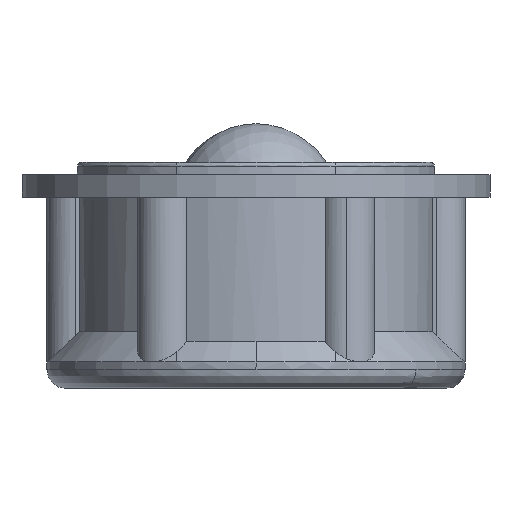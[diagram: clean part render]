
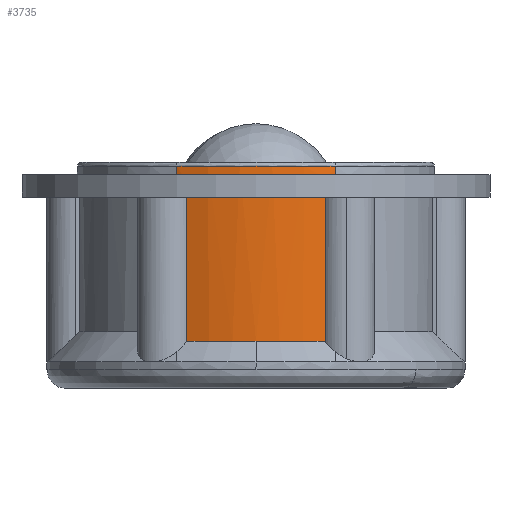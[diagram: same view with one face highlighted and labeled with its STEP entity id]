
A CAD part, left-side view. The second image highlights one B-rep face of the part: STEP entity #3735.
In plain terms, the highlighted cylindrical face has radius 10 mm (diameter 20 mm), a partial arc.
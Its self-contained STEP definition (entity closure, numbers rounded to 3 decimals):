
#52 = CARTESIAN_POINT ( 'NONE',  ( -16.494, 7.077, 22.35 ) ) ;
#104 = CARTESIAN_POINT ( 'NONE',  ( -16.494, 15.477, 17.335 ) ) ;
#172 = ORIENTED_EDGE ( 'NONE', *, *, #4037, .F. ) ;
#416 = LINE ( 'NONE', #1071, #3879 ) ;
#424 = LINE ( 'NONE', #7514, #3072 ) ;
#482 = VERTEX_POINT ( 'NONE', #7277 ) ;
#494 = AXIS2_PLACEMENT_3D ( 'NONE', #7055, #7001, #1819 ) ;
#595 = CARTESIAN_POINT ( 'NONE',  ( -7.419, 11.277, 12.12 ) ) ;
#913 = CARTESIAN_POINT ( 'NONE',  ( -16.494, 15.477, 21.85 ) ) ;
#954 = DIRECTION ( 'NONE',  ( 0., 0., 1. ) ) ;
#981 = ORIENTED_EDGE ( 'NONE', *, *, #6013, .T. ) ;
#1071 = CARTESIAN_POINT ( 'NONE',  ( -16.494, 7.077, 17.335 ) ) ;
#1144 = CARTESIAN_POINT ( 'NONE',  ( -16.494, 15.477, 22.35 ) ) ;
#1493 = CARTESIAN_POINT ( 'NONE',  ( -17.419, 11.277, 13.05 ) ) ;
#1679 = CIRCLE ( 'NONE', #3503, 10. ) ;
#1692 = CARTESIAN_POINT ( 'NONE',  ( -16.494, 15.477, 21.85 ) ) ;
#1694 = VERTEX_POINT ( 'NONE', #52 ) ;
#1712 = CARTESIAN_POINT ( 'NONE',  ( -16.646, 7.413, 21.797 ) ) ;
#1762 = CARTESIAN_POINT ( 'NONE',  ( -16.601, 7.313, 21.84 ) ) ;
#1791 = CARTESIAN_POINT ( 'NONE',  ( -16.707, 7.562, 21.636 ) ) ;
#1813 = CARTESIAN_POINT ( 'NONE',  ( -16.719, 7.598, 21.541 ) ) ;
#1819 = DIRECTION ( 'NONE',  ( -1., 0., 0. ) ) ;
#1964 = VECTOR ( 'NONE', #954, 1000. ) ;
#1994 = CARTESIAN_POINT ( 'NONE',  ( -16.721, 14.949, 21.555 ) ) ;
#2092 = EDGE_CURVE ( 'NONE', #5698, #3938, #6537, .T. ) ;
#2127 = CARTESIAN_POINT ( 'NONE',  ( -16.721, 14.949, 16.85 ) ) ;
#2220 = DIRECTION ( 'NONE',  ( -1., 0., 0. ) ) ;
#2248 = DIRECTION ( 'NONE',  ( 0., 0., -1. ) ) ;
#2536 = CARTESIAN_POINT ( 'NONE',  ( -16.647, 15.129, 21.788 ) ) ;
#2561 = CARTESIAN_POINT ( 'NONE',  ( -16.669, 15.077, 21.744 ) ) ;
#2623 = ORIENTED_EDGE ( 'NONE', *, *, #4710, .T. ) ;
#2641 = B_SPLINE_CURVE_WITH_KNOTS ( 'NONE', 3,
 ( #4562, #5946, #5380, #5463 ),
 .UNSPECIFIED., .F., .F.,
 ( 4, 4 ),
 ( 0., 1. ),
 .UNSPECIFIED. ) ;
#2642 = CARTESIAN_POINT ( 'NONE',  ( -16.554, 15.345, 21.85 ) ) ;
#2667 = VERTEX_POINT ( 'NONE', #7345 ) ;
#2885 = CYLINDRICAL_SURFACE ( 'NONE', #3128, 10. ) ;
#2906 = EDGE_CURVE ( 'NONE', #6485, #3983, #6041, .T. ) ;
#2916 = DIRECTION ( 'NONE',  ( 0., 0., -1. ) ) ;
#3042 = VERTEX_POINT ( 'NONE', #6660 ) ;
#3072 = VECTOR ( 'NONE', #6329, 1000. ) ;
#3128 = AXIS2_PLACEMENT_3D ( 'NONE', #595, #6516, #6462 ) ;
#3131 = CARTESIAN_POINT ( 'NONE',  ( -16.707, 14.985, 21.646 ) ) ;
#3156 = EDGE_CURVE ( 'NONE', #2667, #3983, #424, .T. ) ;
#3235 = CARTESIAN_POINT ( 'NONE',  ( -16.674, 15.066, 21.733 ) ) ;
#3475 = CARTESIAN_POINT ( 'NONE',  ( -16.721, 14.949, 13.05 ) ) ;
#3482 = LINE ( 'NONE', #104, #3845 ) ;
#3503 = AXIS2_PLACEMENT_3D ( 'NONE', #6347, #2248, #6962 ) ;
#3586 = VERTEX_POINT ( 'NONE', #1493 ) ;
#3735 = ADVANCED_FACE ( 'NONE', ( #7532 ), #2885, .T. ) ;
#3771 = CIRCLE ( 'NONE', #494, 10. ) ;
#3785 = CARTESIAN_POINT ( 'NONE',  ( -16.633, 15.164, 21.808 ) ) ;
#3845 = VECTOR ( 'NONE', #4180, 1000. ) ;
#3879 = VECTOR ( 'NONE', #6870, 1000. ) ;
#3914 = CARTESIAN_POINT ( 'NONE',  ( -16.515, 15.434, 21.85 ) ) ;
#3938 = VERTEX_POINT ( 'NONE', #6269 ) ;
#3971 = ORIENTED_EDGE ( 'NONE', *, *, #7147, .T. ) ;
#3983 = VERTEX_POINT ( 'NONE', #3998 ) ;
#3998 = CARTESIAN_POINT ( 'NONE',  ( -16.721, 7.606, 21.45 ) ) ;
#4037 = EDGE_CURVE ( 'NONE', #2667, #3586, #1679, .T. ) ;
#4116 = B_SPLINE_CURVE_WITH_KNOTS ( 'NONE', 3,
 ( #913, #3914, #5644, #6809 ),
 .UNSPECIFIED., .F., .F.,
 ( 4, 4 ),
 ( 0., 1. ),
 .UNSPECIFIED. ) ;
#4180 = DIRECTION ( 'NONE',  ( 0., 0., -1. ) ) ;
#4410 = VERTEX_POINT ( 'NONE', #1692 ) ;
#4553 = EDGE_LOOP ( 'NONE', ( #172, #6866, #6302, #6263, #2623, #6647, #3971, #5572, #981, #7552, #4789 ) ) ;
#4562 = CARTESIAN_POINT ( 'NONE',  ( -16.494, 7.077, 21.85 ) ) ;
#4668 = CARTESIAN_POINT ( 'NONE',  ( -16.554, 7.209, 21.85 ) ) ;
#4710 = EDGE_CURVE ( 'NONE', #3042, #1694, #416, .T. ) ;
#4720 = CARTESIAN_POINT ( 'NONE',  ( -16.697, 7.534, 21.683 ) ) ;
#4789 = ORIENTED_EDGE ( 'NONE', *, *, #6651, .F. ) ;
#5223 = EDGE_CURVE ( 'NONE', #4410, #482, #4116, .T. ) ;
#5255 = CARTESIAN_POINT ( 'NONE',  ( -16.577, 7.26, 21.85 ) ) ;
#5380 = CARTESIAN_POINT ( 'NONE',  ( -16.534, 7.165, 21.85 ) ) ;
#5436 = CARTESIAN_POINT ( 'NONE',  ( -16.661, 15.097, 21.762 ) ) ;
#5463 = CARTESIAN_POINT ( 'NONE',  ( -16.554, 7.209, 21.85 ) ) ;
#5572 = ORIENTED_EDGE ( 'NONE', *, *, #5223, .T. ) ;
#5644 = CARTESIAN_POINT ( 'NONE',  ( -16.534, 15.39, 21.85 ) ) ;
#5698 = VERTEX_POINT ( 'NONE', #3475 ) ;
#5847 = CARTESIAN_POINT ( 'NONE',  ( -16.666, 7.459, 21.764 ) ) ;
#5946 = CARTESIAN_POINT ( 'NONE',  ( -16.515, 7.121, 21.85 ) ) ;
#6013 = EDGE_CURVE ( 'NONE', #482, #3938, #7333, .T. ) ;
#6041 = B_SPLINE_CURVE_WITH_KNOTS ( 'NONE', 3,
 ( #4668, #5255, #1762, #1712, #5847, #4720, #1791, #1813, #6389, #6975 ),
 .UNSPECIFIED., .F., .F.,
 ( 4, 2, 2, 2, 4 ),
 ( 0., 0.25, 0.5, 0.75, 1. ),
 .UNSPECIFIED. ) ;
#6263 = ORIENTED_EDGE ( 'NONE', *, *, #7180, .F. ) ;
#6269 = CARTESIAN_POINT ( 'NONE',  ( -16.721, 14.949, 21.45 ) ) ;
#6302 = ORIENTED_EDGE ( 'NONE', *, *, #2906, .F. ) ;
#6319 = CARTESIAN_POINT ( 'NONE',  ( -7.419, 11.277, 13.05 ) ) ;
#6329 = DIRECTION ( 'NONE',  ( 0., 0., 1. ) ) ;
#6340 = VERTEX_POINT ( 'NONE', #1144 ) ;
#6347 = CARTESIAN_POINT ( 'NONE',  ( -7.419, 11.277, 13.05 ) ) ;
#6389 = CARTESIAN_POINT ( 'NONE',  ( -16.721, 7.606, 21.493 ) ) ;
#6462 = DIRECTION ( 'NONE',  ( 1., 0., 0. ) ) ;
#6485 = VERTEX_POINT ( 'NONE', #6644 ) ;
#6516 = DIRECTION ( 'NONE',  ( 0., 0., 1. ) ) ;
#6537 = LINE ( 'NONE', #2127, #1964 ) ;
#6644 = CARTESIAN_POINT ( 'NONE',  ( -16.554, 7.209, 21.85 ) ) ;
#6647 = ORIENTED_EDGE ( 'NONE', *, *, #6756, .T. ) ;
#6651 = EDGE_CURVE ( 'NONE', #3586, #5698, #7048, .T. ) ;
#6660 = CARTESIAN_POINT ( 'NONE',  ( -16.494, 7.077, 21.85 ) ) ;
#6727 = CARTESIAN_POINT ( 'NONE',  ( -16.579, 15.288, 21.85 ) ) ;
#6756 = EDGE_CURVE ( 'NONE', #1694, #6340, #3771, .T. ) ;
#6809 = CARTESIAN_POINT ( 'NONE',  ( -16.554, 15.345, 21.85 ) ) ;
#6866 = ORIENTED_EDGE ( 'NONE', *, *, #3156, .T. ) ;
#6870 = DIRECTION ( 'NONE',  ( 0., 0., 1. ) ) ;
#6962 = DIRECTION ( 'NONE',  ( -1., 0., 0. ) ) ;
#6975 = CARTESIAN_POINT ( 'NONE',  ( -16.721, 7.606, 21.45 ) ) ;
#7001 = DIRECTION ( 'NONE',  ( 0., 0., -1. ) ) ;
#7048 = CIRCLE ( 'NONE', #7233, 10. ) ;
#7055 = CARTESIAN_POINT ( 'NONE',  ( -7.419, 11.277, 22.35 ) ) ;
#7147 = EDGE_CURVE ( 'NONE', #6340, #4410, #3482, .T. ) ;
#7180 = EDGE_CURVE ( 'NONE', #3042, #6485, #2641, .T. ) ;
#7204 = CARTESIAN_POINT ( 'NONE',  ( -16.721, 14.949, 21.45 ) ) ;
#7233 = AXIS2_PLACEMENT_3D ( 'NONE', #6319, #2916, #2220 ) ;
#7277 = CARTESIAN_POINT ( 'NONE',  ( -16.554, 15.345, 21.85 ) ) ;
#7282 = CARTESIAN_POINT ( 'NONE',  ( -16.602, 15.236, 21.839 ) ) ;
#7333 = B_SPLINE_CURVE_WITH_KNOTS ( 'NONE', 3,
 ( #2642, #6727, #7282, #3785, #2536, #5436, #2561, #3235, #3131, #1994, #7204 ),
 .UNSPECIFIED., .F., .F.,
 ( 4, 2, 1, 2, 2, 4 ),
 ( 0., 0.25, 0.375, 0.437, 0.5, 1. ),
 .UNSPECIFIED. ) ;
#7345 = CARTESIAN_POINT ( 'NONE',  ( -16.721, 7.606, 13.05 ) ) ;
#7514 = CARTESIAN_POINT ( 'NONE',  ( -16.721, 7.606, 17.335 ) ) ;
#7532 = FACE_OUTER_BOUND ( 'NONE', #4553, .T. ) ;
#7552 = ORIENTED_EDGE ( 'NONE', *, *, #2092, .F. ) ;
